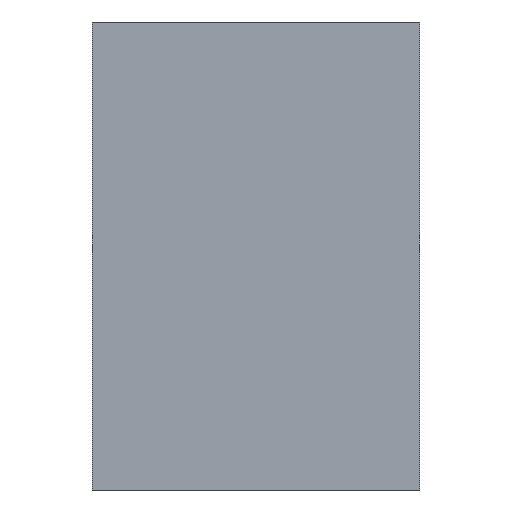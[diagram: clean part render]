
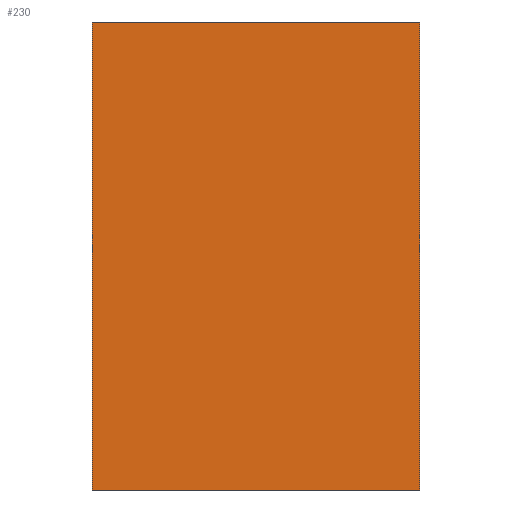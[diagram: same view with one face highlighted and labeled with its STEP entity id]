
A CAD part, front view. The second image highlights one B-rep face of the part: STEP entity #230.
In plain terms, the highlighted planar face has unit normal (0, -1, 0).
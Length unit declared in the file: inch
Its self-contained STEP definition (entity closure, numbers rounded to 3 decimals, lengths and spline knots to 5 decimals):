
#7 = CARTESIAN_POINT ( 'NONE',  ( -27.55906, 27.55906, 78.74016 ) ) ;
#10 = PLANE ( 'NONE',  #40 ) ;
#15 = LINE ( 'NONE', #55, #85 ) ;
#36 = EDGE_CURVE ( 'NONE', #158, #213, #127, .T. ) ;
#40 = AXIS2_PLACEMENT_3D ( 'NONE', #7, #89, #94 ) ;
#46 = EDGE_LOOP ( 'NONE', ( #210, #181, #178, #81 ) ) ;
#55 = CARTESIAN_POINT ( 'NONE',  ( 27.55906, 27.55906, 78.74016 ) ) ;
#63 = DIRECTION ( 'NONE',  ( 1., 0., 0. ) ) ;
#67 = LINE ( 'NONE', #145, #78 ) ;
#71 = CARTESIAN_POINT ( 'NONE',  ( -27.55906, 27.55906, 78.74016 ) ) ;
#72 = CARTESIAN_POINT ( 'NONE',  ( 27.55906, 27.55906, 78.74016 ) ) ;
#75 = EDGE_CURVE ( 'NONE', #213, #123, #67, .T. ) ;
#78 = VECTOR ( 'NONE', #63, 39.37008 ) ;
#81 = ORIENTED_EDGE ( 'NONE', *, *, #36, .T. ) ;
#85 = VECTOR ( 'NONE', #124, 39.37008 ) ;
#89 = DIRECTION ( 'NONE',  ( 0., 1., 0. ) ) ;
#94 = DIRECTION ( 'NONE',  ( 0., 0., 1. ) ) ;
#97 = LINE ( 'NONE', #238, #222 ) ;
#119 = VECTOR ( 'NONE', #227, 39.37008 ) ;
#120 = VERTEX_POINT ( 'NONE', #72 ) ;
#123 = VERTEX_POINT ( 'NONE', #200 ) ;
#124 = DIRECTION ( 'NONE',  ( 0., 0., -1. ) ) ;
#127 = LINE ( 'NONE', #142, #119 ) ;
#128 = CARTESIAN_POINT ( 'NONE',  ( -27.55906, 27.55906, 0. ) ) ;
#142 = CARTESIAN_POINT ( 'NONE',  ( -27.55906, 27.55906, 78.74016 ) ) ;
#143 = DIRECTION ( 'NONE',  ( 1., 0., 0. ) ) ;
#145 = CARTESIAN_POINT ( 'NONE',  ( -27.55906, 27.55906, 0. ) ) ;
#158 = VERTEX_POINT ( 'NONE', #71 ) ;
#171 = EDGE_CURVE ( 'NONE', #120, #123, #15, .T. ) ;
#178 = ORIENTED_EDGE ( 'NONE', *, *, #186, .F. ) ;
#181 = ORIENTED_EDGE ( 'NONE', *, *, #171, .F. ) ;
#182 = FACE_OUTER_BOUND ( 'NONE', #46, .T. ) ;
#186 = EDGE_CURVE ( 'NONE', #158, #120, #97, .T. ) ;
#200 = CARTESIAN_POINT ( 'NONE',  ( 27.55906, 27.55906, 0. ) ) ;
#210 = ORIENTED_EDGE ( 'NONE', *, *, #75, .T. ) ;
#213 = VERTEX_POINT ( 'NONE', #128 ) ;
#222 = VECTOR ( 'NONE', #143, 39.37008 ) ;
#227 = DIRECTION ( 'NONE',  ( 0., 0., -1. ) ) ;
#230 = ADVANCED_FACE ( 'NONE', ( #182 ), #10, .F. ) ;
#238 = CARTESIAN_POINT ( 'NONE',  ( -27.55906, 27.55906, 78.74016 ) ) ;
